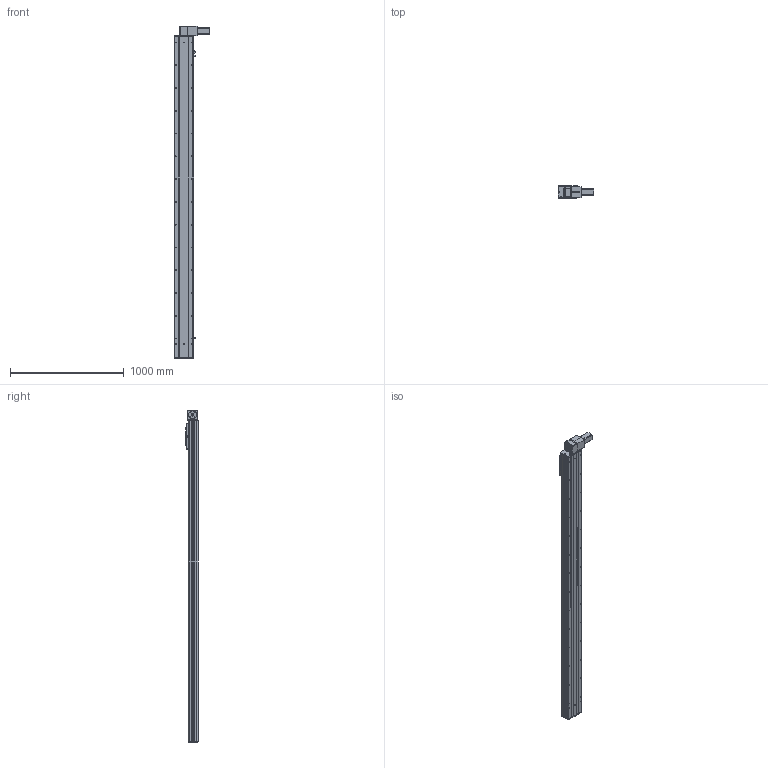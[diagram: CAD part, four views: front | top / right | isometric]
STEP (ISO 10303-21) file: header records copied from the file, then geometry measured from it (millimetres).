
FILE_DESCRIPTION (( 'STEP AP203' ), '1' );
FILE_NAME ('Y170CB-D105-S2500-BD-P400W.STEP', '2020-02-20T09:11:56', ( '微软用户' ), ( '微软中国' ), 'SwSTEP 2.0', 'SolidWorks 2017', '' );
FILE_SCHEMA (( 'CONFIG_CONTROL_DESIGN' ));
Length unit declared in the file: millimetre
Products named in the file (16): Y170CB-D105-S2500-BD-P400W; 70C-雄赽釱-奻-; 0C--雄赽釱俋欶-170; B-源倛裔啣; 70CB-詩湍--; san松下电机400不带刹车----; Y100-135俋离換覜ん--; 70CB-掛极-; Y170CB-陔俋离換覜結え---; --70CB --喘謫眊楊擘啣-; Y1埴倛裔; 70CB-耜裔啣-; 70B喘謫眊----; 70C--詩湍揤踡え-; 0B薊粣ん眊-400W--; 70CB--耜裔
Assembly tree (19 placements, depth 2):
  Y170CB-D105-S2500-BD-P400W
    B-源倛裔啣
    san松下电机400不带刹车----
    70CB-掛极-
    --70CB --喘謫眊楊擘啣-
    70CB-耜裔啣-  x2
    70C--詩湍揤踡え-  x2
    70CB--耜裔
    70C-雄赽釱-奻-
    0C--雄赽釱俋欶-170
    70CB-詩湍--
    Y100-135俋离換覜ん--  x3
    Y170CB-陔俋离換覜結え---
    Y1埴倛裔
    70B喘謫眊----
    0B薊粣ん眊-400W--
Bounding box: 313.5 x 107 x 2916 mm (x, y, z)
Volume: 12732238.2 mm3; surface area: 4466508.4 mm2
Topology: 19 solids, 19 shells, 984 faces, 2618 edges, 1736 vertices
Faces by surface type: cylinder 538, plane 422, cone 24
Entity records: 31055 total; most frequent: CARTESIAN_POINT 5806, DIRECTION 5055, ORIENTED_EDGE 4718, EDGE_CURVE 2359, AXIS2_PLACEMENT_3D 1881, VERTEX_POINT 1566, VECTOR 1293, LINE 1293
